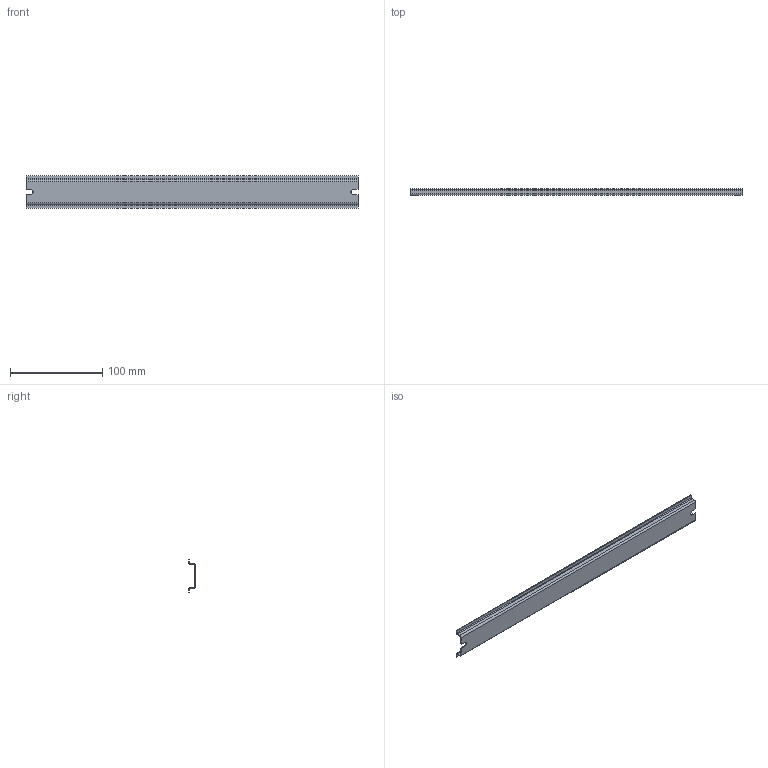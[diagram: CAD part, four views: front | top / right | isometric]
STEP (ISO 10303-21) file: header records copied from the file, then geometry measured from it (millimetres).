
FILE_DESCRIPTION((''),'2;1');
FILE_NAME('DR35350_5','2009-03-17T',('pavel_leivo'),(''),'PRO/ENGINEER BY PARAMETRIC TECHNOLOGY CORPORATION, 2008250','PRO/ENGINEER BY PARAMETRIC TECHNOLOGY CORPORATION, 2008250','');
FILE_SCHEMA(('AUTOMOTIVE_DESIGN_CC2 { 1 2 10303 214 -1 1 5 2 }'));
Length unit declared in the file: millimetre
Products named in the file (1): DR35350_5
Bounding box: 360 x 7.5 x 35 mm (x, y, z)
Volume: 16397.8 mm3; surface area: 33633.4 mm2
Topology: 1 solids, 1 shells, 30 faces, 84 edges, 56 vertices
Faces by surface type: plane 20, cylinder 10
Entity records: 1442 total; most frequent: COLOUR_RGB 200, CARTESIAN_POINT 170, ORIENTED_EDGE 168, DIRECTION 164, PRESENTATION_STYLE_ASSIGNMENT 85, STYLED_ITEM 85, CURVE_STYLE 84, EDGE_CURVE 84
